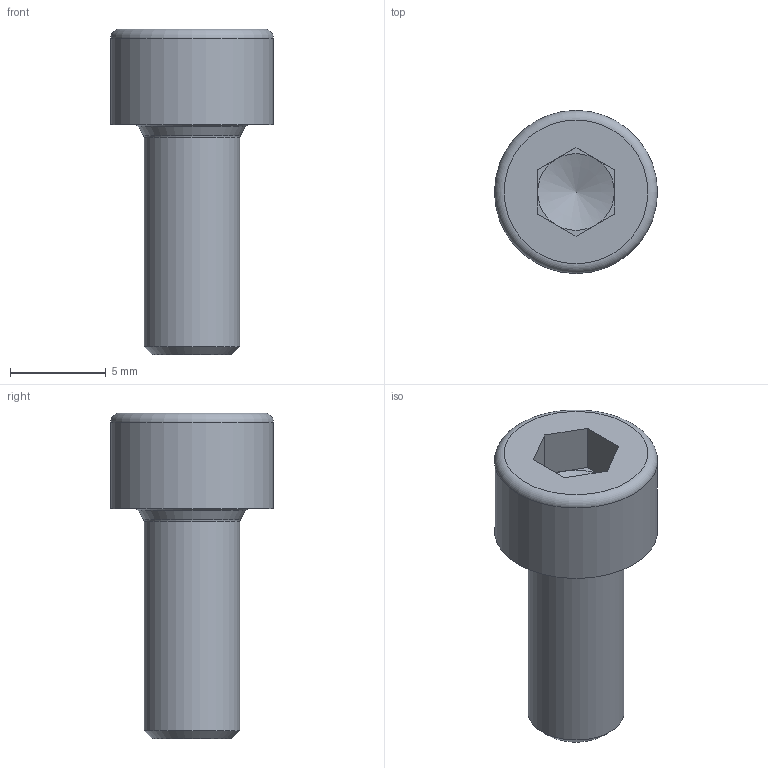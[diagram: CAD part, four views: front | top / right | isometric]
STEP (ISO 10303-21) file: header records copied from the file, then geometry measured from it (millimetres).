
FILE_DESCRIPTION(/* description */ ('STEP AP242 Edition 2','CAx-IF Rec.Pracs.---Representation and Presentation of Product Manufacturing Information (PMI)---4.0---2014-10-13','CAx-IF Rec.Pracs.---3D Tessellated Geometry---0.4---2014-09-14','2;1','CAx-IF Rec.Pracs.---User Defined Attributes---1.5---2016-08-15'),/* implementation_level */ '2;1');
FILE_NAME(/* name */ 'Assy_ForMFG - Hex socket head cap screw M5x0.80 x 12 (24)',/* time_stamp */ '2026-05-15T19:56:21Z',/* author */ (''),/* organization */ (''),/* preprocessor_version */ 'ST-DEVELOPER v20',/* originating_system */ 'ONSHAPE BY PTC INC, 1.215',/* authorisation */ ' ');
FILE_SCHEMA (('AP242_MANAGED_MODEL_BASED_3D_ENGINEERING_MIM_LF { 1 0 10303 442 3 1 4 }'));
Length unit declared in the file: metre
Products named in the file (1): Hex socket head cap screw M5x0.80 x 12
Bounding box: 8.5 x 8.5 x 17 mm (x, y, z)
Volume: 480.6 mm3; surface area: 456.8 mm2
Topology: 1 solids, 1 shells, 23 faces, 49 edges, 29 vertices
Faces by surface type: plane 15, torus 3, cone 3, cylinder 2
Full cylindrical faces by diameter (mm): 5 x1, 8.5 x1
Entity records: 578 total; most frequent: DIRECTION 102, CARTESIAN_POINT 91, ORIENTED_EDGE 78, EDGE_CURVE 39, AXIS2_PLACEMENT_3D 39, FACE_BOUND 33, EDGE_LOOP 32, VERTEX_POINT 28
